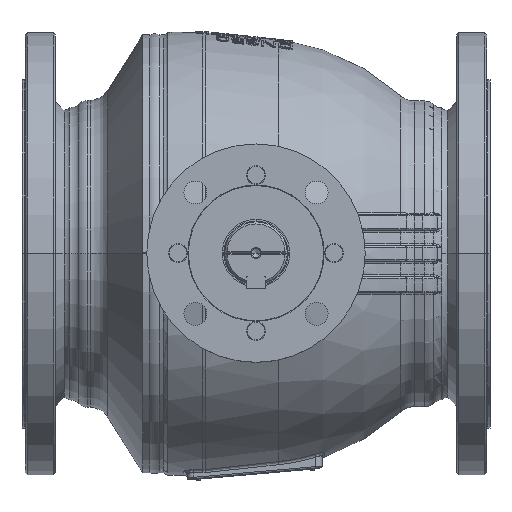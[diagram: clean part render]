
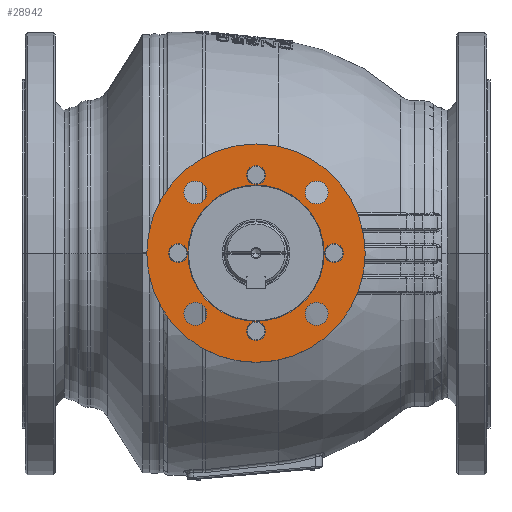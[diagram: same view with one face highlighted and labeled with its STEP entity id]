
A CAD part, top view. The second image highlights one B-rep face of the part: STEP entity #28942.
In plain terms, the highlighted planar face has unit normal (0, 0, 1).
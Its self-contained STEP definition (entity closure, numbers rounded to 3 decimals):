
#174=CARTESIAN_POINT('',(0.,0.,374.));
#175=DIRECTION('',(0.,0.,1.));
#176=DIRECTION('',(1.,0.,0.));
#177=AXIS2_PLACEMENT_3D('',#174,#175,#176);
#179=CARTESIAN_POINT('',(0.,0.,374.));
#180=DIRECTION('',(0.,0.,-1.));
#181=DIRECTION('',(1.,0.,0.));
#182=AXIS2_PLACEMENT_3D('',#179,#180,#181);
#184=CARTESIAN_POINT('',(58.336,58.336,374.));
#185=DIRECTION('',(0.,0.,-1.));
#186=DIRECTION('',(-1.,0.,0.));
#187=AXIS2_PLACEMENT_3D('',#184,#185,#186);
#189=CARTESIAN_POINT('',(58.336,58.336,374.));
#190=DIRECTION('',(0.,0.,-1.));
#191=DIRECTION('',(1.,0.,0.));
#192=AXIS2_PLACEMENT_3D('',#189,#190,#191);
#194=CARTESIAN_POINT('',(-58.336,58.336,374.));
#195=DIRECTION('',(0.,0.,-1.));
#196=DIRECTION('',(-1.,0.,0.));
#197=AXIS2_PLACEMENT_3D('',#194,#195,#196);
#199=CARTESIAN_POINT('',(-58.336,58.336,374.));
#200=DIRECTION('',(0.,0.,-1.));
#201=DIRECTION('',(1.,0.,0.));
#202=AXIS2_PLACEMENT_3D('',#199,#200,#201);
#204=CARTESIAN_POINT('',(-58.336,-58.336,374.));
#205=DIRECTION('',(0.,0.,-1.));
#206=DIRECTION('',(-1.,0.,0.));
#207=AXIS2_PLACEMENT_3D('',#204,#205,#206);
#209=CARTESIAN_POINT('',(-58.336,-58.336,374.));
#210=DIRECTION('',(0.,0.,-1.));
#211=DIRECTION('',(1.,0.,0.));
#212=AXIS2_PLACEMENT_3D('',#209,#210,#211);
#214=CARTESIAN_POINT('',(58.336,-58.336,374.));
#215=DIRECTION('',(0.,0.,-1.));
#216=DIRECTION('',(-1.,0.,0.));
#217=AXIS2_PLACEMENT_3D('',#214,#215,#216);
#219=CARTESIAN_POINT('',(58.336,-58.336,374.));
#220=DIRECTION('',(0.,0.,-1.));
#221=DIRECTION('',(1.,0.,0.));
#222=AXIS2_PLACEMENT_3D('',#219,#220,#221);
#224=CARTESIAN_POINT('',(-75.,0.,374.));
#225=DIRECTION('',(0.,0.,1.));
#226=DIRECTION('',(-1.,0.,0.));
#227=AXIS2_PLACEMENT_3D('',#224,#225,#226);
#229=CARTESIAN_POINT('',(-75.,0.,374.));
#230=DIRECTION('',(0.,0.,1.));
#231=DIRECTION('',(1.,0.,0.));
#232=AXIS2_PLACEMENT_3D('',#229,#230,#231);
#234=CARTESIAN_POINT('',(0.,75.,374.));
#235=DIRECTION('',(0.,0.,-1.));
#236=DIRECTION('',(0.,-1.,0.));
#237=AXIS2_PLACEMENT_3D('',#234,#235,#236);
#239=CARTESIAN_POINT('',(0.,75.,374.));
#240=DIRECTION('',(0.,0.,-1.));
#241=DIRECTION('',(0.,1.,0.));
#242=AXIS2_PLACEMENT_3D('',#239,#240,#241);
#244=CARTESIAN_POINT('',(75.,0.,374.));
#245=DIRECTION('',(0.,0.,1.));
#246=DIRECTION('',(1.,0.,0.));
#247=AXIS2_PLACEMENT_3D('',#244,#245,#246);
#249=CARTESIAN_POINT('',(75.,0.,374.));
#250=DIRECTION('',(0.,0.,1.));
#251=DIRECTION('',(-1.,0.,0.));
#252=AXIS2_PLACEMENT_3D('',#249,#250,#251);
#254=CARTESIAN_POINT('',(0.,-75.,374.));
#255=DIRECTION('',(0.,0.,-1.));
#256=DIRECTION('',(0.,1.,0.));
#257=AXIS2_PLACEMENT_3D('',#254,#255,#256);
#259=CARTESIAN_POINT('',(0.,-75.,374.));
#260=DIRECTION('',(0.,0.,-1.));
#261=DIRECTION('',(0.,-1.,0.));
#262=AXIS2_PLACEMENT_3D('',#259,#260,#261);
#264=CARTESIAN_POINT('',(0.,0.,374.));
#265=DIRECTION('',(0.,0.,1.));
#266=DIRECTION('',(-1.,0.,0.));
#267=AXIS2_PLACEMENT_3D('',#264,#265,#266);
#269=CARTESIAN_POINT('',(0.,0.,374.));
#270=DIRECTION('',(0.,0.,1.));
#271=DIRECTION('',(1.,0.,0.));
#272=AXIS2_PLACEMENT_3D('',#269,#270,#271);
#27519=CARTESIAN_POINT('',(105.,0.,374.));
#27521=VERTEX_POINT('',#27519);
#27527=CARTESIAN_POINT('',(-105.,0.,374.));
#27529=VERTEX_POINT('',#27527);
#27542=CARTESIAN_POINT('',(-84.,0.,374.));
#27543=CARTESIAN_POINT('',(-66.,0.,374.));
#27544=VERTEX_POINT('',#27542);
#27545=VERTEX_POINT('',#27543);
#27546=CARTESIAN_POINT('',(0.,66.,374.));
#27547=CARTESIAN_POINT('',(0.,84.,374.));
#27548=VERTEX_POINT('',#27546);
#27549=VERTEX_POINT('',#27547);
#27550=CARTESIAN_POINT('',(0.,-66.,374.));
#27551=CARTESIAN_POINT('',(0.,-84.,374.));
#27552=VERTEX_POINT('',#27550);
#27553=VERTEX_POINT('',#27551);
#27554=CARTESIAN_POINT('',(84.,0.,374.));
#27555=CARTESIAN_POINT('',(66.,0.,374.));
#27556=VERTEX_POINT('',#27554);
#27557=VERTEX_POINT('',#27555);
#27562=CARTESIAN_POINT('',(47.336,58.336,374.));
#27563=CARTESIAN_POINT('',(69.336,58.336,374.));
#27564=VERTEX_POINT('',#27562);
#27565=VERTEX_POINT('',#27563);
#27570=CARTESIAN_POINT('',(-69.336,58.336,374.));
#27571=CARTESIAN_POINT('',(-47.336,58.336,374.));
#27572=VERTEX_POINT('',#27570);
#27573=VERTEX_POINT('',#27571);
#27578=CARTESIAN_POINT('',(-69.336,-58.336,374.));
#27579=CARTESIAN_POINT('',(-47.336,-58.336,374.));
#27580=VERTEX_POINT('',#27578);
#27581=VERTEX_POINT('',#27579);
#27586=CARTESIAN_POINT('',(47.336,-58.336,374.));
#27587=CARTESIAN_POINT('',(69.336,-58.336,374.));
#27588=VERTEX_POINT('',#27586);
#27589=VERTEX_POINT('',#27587);
#27594=CARTESIAN_POINT('',(-65.5,0.,374.));
#27595=CARTESIAN_POINT('',(65.5,0.,374.));
#27596=VERTEX_POINT('',#27594);
#27597=VERTEX_POINT('',#27595);
#28879=CARTESIAN_POINT('',(0.,0.,374.));
#28880=DIRECTION('',(0.,0.,-1.));
#28881=DIRECTION('',(-1.,0.,0.));
#28882=AXIS2_PLACEMENT_3D('',#28879,#28880,#28881);
#28883=PLANE('',#28882);
#28884=ORIENTED_EDGE('',*,*,#28872,.F.);
#28885=ORIENTED_EDGE('',*,*,#28861,.T.);
#28886=EDGE_LOOP('',(#28884,#28885));
#28887=FACE_OUTER_BOUND('',#28886,.F.);
#28889=ORIENTED_EDGE('',*,*,#28888,.F.);
#28891=ORIENTED_EDGE('',*,*,#28890,.F.);
#28892=EDGE_LOOP('',(#28889,#28891));
#28893=FACE_BOUND('',#28892,.F.);
#28895=ORIENTED_EDGE('',*,*,#28894,.F.);
#28897=ORIENTED_EDGE('',*,*,#28896,.F.);
#28898=EDGE_LOOP('',(#28895,#28897));
#28899=FACE_BOUND('',#28898,.F.);
#28901=ORIENTED_EDGE('',*,*,#28900,.F.);
#28903=ORIENTED_EDGE('',*,*,#28902,.F.);
#28904=EDGE_LOOP('',(#28901,#28903));
#28905=FACE_BOUND('',#28904,.F.);
#28907=ORIENTED_EDGE('',*,*,#28906,.F.);
#28909=ORIENTED_EDGE('',*,*,#28908,.F.);
#28910=EDGE_LOOP('',(#28907,#28909));
#28911=FACE_BOUND('',#28910,.F.);
#28913=ORIENTED_EDGE('',*,*,#28912,.T.);
#28915=ORIENTED_EDGE('',*,*,#28914,.T.);
#28916=EDGE_LOOP('',(#28913,#28915));
#28917=FACE_BOUND('',#28916,.F.);
#28919=ORIENTED_EDGE('',*,*,#28918,.F.);
#28921=ORIENTED_EDGE('',*,*,#28920,.F.);
#28922=EDGE_LOOP('',(#28919,#28921));
#28923=FACE_BOUND('',#28922,.F.);
#28925=ORIENTED_EDGE('',*,*,#28924,.T.);
#28927=ORIENTED_EDGE('',*,*,#28926,.T.);
#28928=EDGE_LOOP('',(#28925,#28927));
#28929=FACE_BOUND('',#28928,.F.);
#28931=ORIENTED_EDGE('',*,*,#28930,.F.);
#28933=ORIENTED_EDGE('',*,*,#28932,.F.);
#28934=EDGE_LOOP('',(#28931,#28933));
#28935=FACE_BOUND('',#28934,.F.);
#28937=ORIENTED_EDGE('',*,*,#28936,.T.);
#28939=ORIENTED_EDGE('',*,*,#28938,.T.);
#28940=EDGE_LOOP('',(#28937,#28939));
#28941=FACE_BOUND('',#28940,.F.);
#28942=ADVANCED_FACE('',(#28887,#28893,#28899,#28905,#28911,#28917,#28923,
#28929,#28935,#28941),#28883,.F.);
#178=CIRCLE('',#177,105.);
#183=CIRCLE('',#182,105.);
#188=CIRCLE('',#187,11.);
#193=CIRCLE('',#192,11.);
#198=CIRCLE('',#197,11.);
#203=CIRCLE('',#202,11.);
#208=CIRCLE('',#207,11.);
#213=CIRCLE('',#212,11.);
#218=CIRCLE('',#217,11.);
#223=CIRCLE('',#222,11.);
#228=CIRCLE('',#227,9.);
#233=CIRCLE('',#232,9.);
#238=CIRCLE('',#237,9.);
#243=CIRCLE('',#242,9.);
#248=CIRCLE('',#247,9.);
#253=CIRCLE('',#252,9.);
#258=CIRCLE('',#257,9.);
#263=CIRCLE('',#262,9.);
#268=CIRCLE('',#267,65.5);
#273=CIRCLE('',#272,65.5);
#28861=EDGE_CURVE('',#27521,#27529,#183,.T.);
#28872=EDGE_CURVE('',#27521,#27529,#178,.T.);
#28888=EDGE_CURVE('',#27564,#27565,#188,.T.);
#28890=EDGE_CURVE('',#27565,#27564,#193,.T.);
#28894=EDGE_CURVE('',#27572,#27573,#198,.T.);
#28896=EDGE_CURVE('',#27573,#27572,#203,.T.);
#28900=EDGE_CURVE('',#27580,#27581,#208,.T.);
#28902=EDGE_CURVE('',#27581,#27580,#213,.T.);
#28906=EDGE_CURVE('',#27588,#27589,#218,.T.);
#28908=EDGE_CURVE('',#27589,#27588,#223,.T.);
#28912=EDGE_CURVE('',#27544,#27545,#228,.T.);
#28914=EDGE_CURVE('',#27545,#27544,#233,.T.);
#28918=EDGE_CURVE('',#27548,#27549,#238,.T.);
#28920=EDGE_CURVE('',#27549,#27548,#243,.T.);
#28924=EDGE_CURVE('',#27556,#27557,#248,.T.);
#28926=EDGE_CURVE('',#27557,#27556,#253,.T.);
#28930=EDGE_CURVE('',#27552,#27553,#258,.T.);
#28932=EDGE_CURVE('',#27553,#27552,#263,.T.);
#28936=EDGE_CURVE('',#27596,#27597,#268,.T.);
#28938=EDGE_CURVE('',#27597,#27596,#273,.T.);
